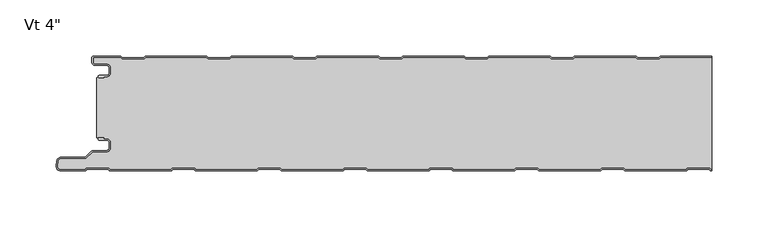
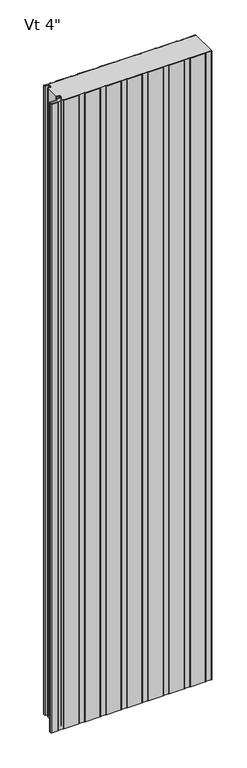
"""IFC4 building model written with IfcOpenShell, lengths in millimetres: plate geometry."""

from ifc_helpers import new_model, si_unit, point, frame, frame_2d, origin, origin_with_axes, place, context, project, spatial, polyline, circle_curve, trimmed, segment, composite_curve, outline, extrude, source, transform, mapped, element, save
from ifc_brep_helpers import plane_surface, cylinder_surface, revolved_surface, advanced_brep


def plate_0ff2a340(model_context):
    return source(origin(), model_context, "Body", "SolidModel", [
        advanced_brep(
        [(-270.768691, -17.0015159, 2400.0), (-271.7686883, -18.0015191, 2400.0), (-270.768691, -19.0015105, 2400.0), (-266.7684874, -19.0015105, 2400.0), (-266.7684874, -18.0015159, 2400.0), (-264.0762776, -18.0015159, 2400.0), (-260.7762819, -14.7015202, 2400.0), (-260.7762819, -10.301529, 2400.0), (-264.0762774, -7.0015335, 2400.0), (-274.4962563, -7.0015335, 2400.0), (-276.2662505, -5.2315393, 2400.0), (-276.2662505, -0.9999916, 2400.0), (-251.7659738, -0.9999916, 2400.0), (-250.3803312, -2.2002307, 2400.0), (-231.0051649, -2.2002307, 2400.0), (-229.619532, -1.0, 2400.0), (-175.5661166, -1.0, 2400.0), (-174.1804836, -2.2002307, 2400.0), (-154.8053173, -2.2002307, 2400.0), (-153.4196844, -1.0, 2400.0), (-99.366269, -1.0, 2400.0), (-97.980636, -2.2002307, 2400.0), (-78.6054697, -2.2002307, 2400.0), (-77.2198368, -1.0, 2400.0), (-23.1664214, -1.0, 2400.0), (-21.7807884, -2.2002307, 2400.0), (-2.4056221, -2.2002307, 2400.0), (-1.0199892, -1.0, 2400.0), (53.0334262, -1.0, 2400.0), (54.4190592, -2.2002307, 2400.0), (73.7942255, -2.2002307, 2400.0), (75.1798584, -1.0, 2400.0), (129.2332738, -1.0, 2400.0), (130.6189068, -2.2002307, 2400.0), (149.9940731, -2.2002307, 2400.0), (151.379706, -1.0, 2400.0), (205.4331214, -1.0, 2400.0), (206.8187544, -2.2002307, 2400.0), (226.1939207, -2.2002307, 2400.0), (227.5795536, -1.0, 2400.0), (272.7999998, -1.0, 2400.0), (272.7999998, 0.0, 2400.0), (227.7287048, 0.0, 2400.0), (226.8120879, -0.3417885, 2400.0), (225.8210403, -1.2002307, 2400.0), (207.1916348, -1.2002307, 2400.0), (206.2005872, -0.3417885, 2400.0), (205.2839703, 0.0, 2400.0), (151.5288572, 0.0, 2400.0), (150.6122403, -0.3417885, 2400.0), (149.6211927, -1.2002307, 2400.0), (130.9917872, -1.2002307, 2400.0), (130.0007396, -0.3417885, 2400.0), (129.0841227, 0.0, 2400.0), (75.3290096, 0.0, 2400.0), (74.4123927, -0.3417885, 2400.0), (73.4213451, -1.2002307, 2400.0), (54.7919396, -1.2002307, 2400.0), (53.800892, -0.3417885, 2400.0), (52.8842751, 0.0, 2400.0), (-0.870838, 0.0, 2400.0), (-1.7874549, -0.3417885, 2400.0), (-2.7785025, -1.2002307, 2400.0), (-21.407908, -1.2002307, 2400.0), (-22.3989556, -0.3417885, 2400.0), (-23.3155725, 0.0, 2400.0), (-77.0706856, 0.0, 2400.0), (-77.9873025, -0.3417885, 2400.0), (-78.9783501, -1.2002307, 2400.0), (-97.6077556, -1.2002307, 2400.0), (-98.5988032, -0.3417885, 2400.0), (-99.5154201, 0.0, 2400.0), (-153.2705332, 0.0, 2400.0), (-154.1871501, -0.3417885, 2400.0), (-155.1781977, -1.2002307, 2400.0), (-173.8076032, -1.2002307, 2400.0), (-174.7986508, -0.3417885, 2400.0), (-175.7152677, 0.0, 2400.0), (-229.4703808, 0.0, 2400.0), (-230.3869977, -0.3417885, 2400.0), (-231.3780453, -1.2002307, 2400.0), (-250.0074508, -1.2002307, 2400.0), (-250.9984984, -0.3417885, 2400.0), (-251.9152067, 0.0, 2400.0), (-275.8662543, 8.4e-06, 2400.0), (-277.2662505, -1.3999878, 2400.0), (-277.2662505, -5.2315393, 2400.0), (-274.4962563, -8.0015335, 2400.0), (-264.0762774, -8.0015335, 2400.0), (-261.7762819, -10.301529, 2400.0), (-261.7762819, -14.7015202, 2400.0), (-264.0762776, -17.0015159, 2400.0), (-270.768691, -17.0015159, 0.0), (-264.0762776, -17.0015159, 0.0), (-261.7762819, -14.7015202, 0.0), (-261.7762819, -10.301529, 0.0), (-264.0762774, -8.0015335, 0.0), (-274.4962563, -8.0015335, 0.0), (-277.2662505, -5.2315393, 0.0), (-277.2662505, -1.3999878, 0.0), (-275.8662543, 8.4e-06, 0.0), (-251.9151153, 8.4e-06, 0.0), (-250.9984984, -0.3417885, 0.0), (-250.0074508, -1.2002307, 0.0), (-231.3780453, -1.2002307, 0.0), (-230.3869977, -0.3417885, 0.0), (-229.4703808, 0.0, 0.0), (-175.7152677, 0.0, 0.0), (-174.7986508, -0.3417885, 0.0), (-173.8076032, -1.2002307, 0.0), (-155.1781977, -1.2002307, 0.0), (-154.1871501, -0.3417885, 0.0), (-153.2705332, 0.0, 0.0), (-99.5154201, 0.0, 0.0), (-98.5988032, -0.3417885, 0.0), (-97.6077556, -1.2002307, 0.0), (-78.9783501, -1.2002307, 0.0), (-77.9873025, -0.3417885, 0.0), (-77.0706856, 0.0, 0.0), (-23.3155725, 0.0, 0.0), (-22.3989556, -0.3417885, 0.0), (-21.407908, -1.2002307, 0.0), (-2.7785025, -1.2002307, 0.0), (-1.7874549, -0.3417885, 0.0), (-0.870838, 0.0, 0.0), (52.8842751, 0.0, 0.0), (53.800892, -0.3417885, 0.0), (54.7919396, -1.2002307, 0.0), (73.4213451, -1.2002307, 0.0), (74.4123927, -0.3417885, 0.0), (75.3290096, 0.0, 0.0), (129.0841227, 0.0, 0.0), (130.0007396, -0.3417885, 0.0), (130.9917872, -1.2002307, 0.0), (149.6211927, -1.2002307, 0.0), (150.6122403, -0.3417885, 0.0), (151.5288572, 0.0, 0.0), (205.2839703, 0.0, 0.0), (206.2005872, -0.3417885, 0.0), (207.1916348, -1.2002307, 0.0), (225.8210403, -1.2002307, 0.0), (226.8120879, -0.3417885, 0.0), (227.7287048, 0.0, 0.0), (272.7999998, 0.0, 0.0), (272.7999998, -1.0, 0.0), (227.5795536, -1.0, 0.0), (226.1939207, -2.2002307, 0.0), (206.8187544, -2.2002307, 0.0), (205.4331214, -1.0, 0.0), (151.379706, -1.0, 0.0), (149.9940731, -2.2002307, 0.0), (130.6189068, -2.2002307, 0.0), (129.2332738, -1.0, 0.0), (75.1798584, -1.0, 0.0), (73.7942255, -2.2002307, 0.0), (54.4190592, -2.2002307, 0.0), (53.0334262, -1.0, 0.0), (-1.0199892, -1.0, 0.0), (-2.4056221, -2.2002307, 0.0), (-21.7807884, -2.2002307, 0.0), (-23.1664214, -1.0, 0.0), (-77.2198368, -1.0, 0.0), (-78.6054697, -2.2002307, 0.0), (-97.980636, -2.2002307, 0.0), (-99.366269, -1.0, 0.0), (-153.4196844, -1.0, 0.0), (-154.8053173, -2.2002307, 0.0), (-174.1804836, -2.2002307, 0.0), (-175.5661166, -1.0, 0.0), (-229.619532, -1.0, 0.0), (-231.0051649, -2.2002307, 0.0), (-250.3803312, -2.2002307, 0.0), (-251.7659738, -0.9999916, 0.0), (-276.2662505, -0.9999916, 0.0), (-276.2662505, -5.2315393, 0.0), (-274.4962563, -7.0015335, 0.0), (-264.0762774, -7.0015335, 0.0), (-260.7762819, -10.301529, 0.0), (-260.7762819, -14.7015202, 0.0), (-264.0762776, -18.0015159, 0.0), (-266.7684874, -18.0015159, 0.0), (-266.7684874, -19.0015105, 0.0), (-270.768691, -19.0015105, 0.0), (-271.7686882, -18.0015192, 0.0)],
        [
            (0, 1, circle_curve(frame((-270.768691, -18.0015132, 2400.0), z_axis=(0.0, 0.0, 1.0), x_axis=(1.0, 0.0, 0.0)), 0.9999973)),
            (1, 2, circle_curve(frame((-270.768691, -18.0015133, 2400.0), z_axis=(0.0, 0.0, 1.0), x_axis=(1.0, 0.0, 0.0)), 0.9999972)),
            (2, 3),
            (3, 4),
            (4, 5),
            (5, 6, circle_curve(frame((-264.0762776, -14.7015202, 2400.0), z_axis=(0.0, 0.0, 1.0), x_axis=(1.0, 0.0, 0.0)), 3.2999957)),
            (6, 7),
            (7, 8, circle_curve(frame((-264.0762774, -10.301529, 2400.0), z_axis=(0.0, 0.0, 1.0), x_axis=(1.0, 0.0, 0.0)), 3.2999955)),
            (8, 9),
            (9, 10, circle_curve(frame((-274.4962563, -5.2315393, 2400.0), z_axis=(0.0, 0.0, -1.0), x_axis=(1.0, 0.0, 0.0)), 1.7699942)),
            (10, 11),
            (11, 12),
            (12, 13),
            (13, 14),
            (14, 15),
            (15, 16),
            (16, 17),
            (17, 18),
            (18, 19),
            (19, 20),
            (20, 21),
            (21, 22),
            (22, 23),
            (23, 24),
            (24, 25),
            (25, 26),
            (26, 27),
            (27, 28),
            (28, 29),
            (29, 30),
            (30, 31),
            (31, 32),
            (32, 33),
            (33, 34),
            (34, 35),
            (35, 36),
            (36, 37),
            (37, 38),
            (38, 39),
            (39, 40),
            (40, 41),
            (41, 42),
            (42, 43, circle_curve(frame((227.7287048, -1.3999972, 2400.0), z_axis=(0.0, 0.0, 1.0), x_axis=(1.0, 0.0, 0.0)), 1.3999972)),
            (43, 44),
            (44, 45),
            (45, 46),
            (46, 47, circle_curve(frame((205.2839703, -1.3999972, 2400.0), z_axis=(0.0, 0.0, 1.0), x_axis=(1.0, 0.0, 0.0)), 1.3999972)),
            (47, 48),
            (48, 49, circle_curve(frame((151.5288572, -1.3999972, 2400.0), z_axis=(0.0, 0.0, 1.0), x_axis=(1.0, 0.0, 0.0)), 1.3999972)),
            (49, 50),
            (50, 51),
            (51, 52),
            (52, 53, circle_curve(frame((129.0841227, -1.3999972, 2400.0), z_axis=(0.0, 0.0, 1.0), x_axis=(1.0, 0.0, 0.0)), 1.3999972)),
            (53, 54),
            (54, 55, circle_curve(frame((75.3290096, -1.3999972, 2400.0), z_axis=(0.0, 0.0, 1.0), x_axis=(1.0, 0.0, 0.0)), 1.3999972)),
            (55, 56),
            (56, 57),
            (57, 58),
            (58, 59, circle_curve(frame((52.8842751, -1.3999972, 2400.0), z_axis=(0.0, 0.0, 1.0), x_axis=(1.0, 0.0, 0.0)), 1.3999972)),
            (59, 60),
            (60, 61, circle_curve(frame((-0.870838, -1.3999972, 2400.0), z_axis=(0.0, 0.0, 1.0), x_axis=(1.0, 0.0, 0.0)), 1.3999972)),
            (61, 62),
            (62, 63),
            (63, 64),
            (64, 65, circle_curve(frame((-23.3155725, -1.3999972, 2400.0), z_axis=(0.0, 0.0, 1.0), x_axis=(1.0, 0.0, 0.0)), 1.3999972)),
            (65, 66),
            (66, 67, circle_curve(frame((-77.0706856, -1.3999972, 2400.0), z_axis=(0.0, 0.0, 1.0), x_axis=(1.0, 0.0, 0.0)), 1.3999972)),
            (67, 68),
            (68, 69),
            (69, 70),
            (70, 71, circle_curve(frame((-99.5154201, -1.3999972, 2400.0), z_axis=(0.0, 0.0, 1.0), x_axis=(1.0, 0.0, 0.0)), 1.3999972)),
            (71, 72),
            (72, 73, circle_curve(frame((-153.2705332, -1.3999972, 2400.0), z_axis=(0.0, 0.0, 1.0), x_axis=(1.0, 0.0, 0.0)), 1.3999972)),
            (73, 74),
            (74, 75),
            (75, 76),
            (76, 77, circle_curve(frame((-175.7152677, -1.3999972, 2400.0), z_axis=(0.0, 0.0, 1.0), x_axis=(1.0, 0.0, 0.0)), 1.3999972)),
            (77, 78),
            (78, 79, circle_curve(frame((-229.4703808, -1.3999972, 2400.0), z_axis=(0.0, 0.0, 1.0), x_axis=(1.0, 0.0, 0.0)), 1.3999972)),
            (79, 80),
            (80, 81),
            (81, 82),
            (82, 83, circle_curve(frame((-251.9151153, -1.3999972, 2400.0), z_axis=(0.0, 0.0, 1.0), x_axis=(1.0, 0.0, 0.0)), 1.3999972)),
            (83, 84),
            (84, 85, circle_curve(frame((-275.8662543, -1.3999878, 2400.0), z_axis=(0.0, 0.0, 1.0), x_axis=(1.0, 0.0, 0.0)), 1.3999962)),
            (85, 86),
            (86, 87, circle_curve(frame((-274.4962563, -5.2315393, 2400.0), z_axis=(0.0, 0.0, 1.0), x_axis=(1.0, 0.0, 0.0)), 2.7699942)),
            (87, 88),
            (88, 89, circle_curve(frame((-264.0762774, -10.301529, 2400.0), z_axis=(0.0, 0.0, -1.0), x_axis=(1.0, 0.0, 0.0)), 2.2999955)),
            (89, 90),
            (90, 91, circle_curve(frame((-264.0762776, -14.7015202, 2400.0), z_axis=(0.0, 0.0, -1.0), x_axis=(1.0, 0.0, 0.0)), 2.2999957)),
            (91, 0),
            (92, 93),
            (93, 94, circle_curve(frame((-264.0762776, -14.7015202, 0.0), z_axis=(0.0, 0.0, 1.0), x_axis=(1.0, 0.0, 0.0)), 2.2999957)),
            (94, 95),
            (95, 96, circle_curve(frame((-264.0762774, -10.301529, 0.0), z_axis=(0.0, 0.0, 1.0), x_axis=(1.0, 0.0, 0.0)), 2.2999955)),
            (96, 97),
            (97, 98, circle_curve(frame((-274.4962563, -5.2315393, 0.0), z_axis=(0.0, 0.0, -1.0), x_axis=(1.0, 0.0, 0.0)), 2.7699942)),
            (98, 99),
            (99, 100, circle_curve(frame((-275.8662543, -1.3999878, 0.0), z_axis=(0.0, 0.0, -1.0), x_axis=(1.0, 0.0, 0.0)), 1.3999962)),
            (100, 101),
            (101, 102, circle_curve(frame((-251.9151153, -1.3999972, 0.0), z_axis=(0.0, 0.0, -1.0), x_axis=(1.0, 0.0, 0.0)), 1.3999972)),
            (102, 103),
            (103, 104),
            (104, 105),
            (105, 106, circle_curve(frame((-229.4703808, -1.3999972, 0.0), z_axis=(0.0, 0.0, -1.0), x_axis=(1.0, 0.0, 0.0)), 1.3999972)),
            (106, 107),
            (107, 108, circle_curve(frame((-175.7152677, -1.3999972, 0.0), z_axis=(0.0, 0.0, -1.0), x_axis=(1.0, 0.0, 0.0)), 1.3999972)),
            (108, 109),
            (109, 110),
            (110, 111),
            (111, 112, circle_curve(frame((-153.2705332, -1.3999972, 0.0), z_axis=(0.0, 0.0, -1.0), x_axis=(1.0, 0.0, 0.0)), 1.3999972)),
            (112, 113),
            (113, 114, circle_curve(frame((-99.5154201, -1.3999972, 0.0), z_axis=(0.0, 0.0, -1.0), x_axis=(1.0, 0.0, 0.0)), 1.3999972)),
            (114, 115),
            (115, 116),
            (116, 117),
            (117, 118, circle_curve(frame((-77.0706856, -1.3999972, 0.0), z_axis=(0.0, 0.0, -1.0), x_axis=(1.0, 0.0, 0.0)), 1.3999972)),
            (118, 119),
            (119, 120, circle_curve(frame((-23.3155725, -1.3999972, 0.0), z_axis=(0.0, 0.0, -1.0), x_axis=(1.0, 0.0, 0.0)), 1.3999972)),
            (120, 121),
            (121, 122),
            (122, 123),
            (123, 124, circle_curve(frame((-0.870838, -1.3999972, 0.0), z_axis=(0.0, 0.0, -1.0), x_axis=(1.0, 0.0, 0.0)), 1.3999972)),
            (124, 125),
            (125, 126, circle_curve(frame((52.8842751, -1.3999972, 0.0), z_axis=(0.0, 0.0, -1.0), x_axis=(1.0, 0.0, 0.0)), 1.3999972)),
            (126, 127),
            (127, 128),
            (128, 129),
            (129, 130, circle_curve(frame((75.3290096, -1.3999972, 0.0), z_axis=(0.0, 0.0, -1.0), x_axis=(1.0, 0.0, 0.0)), 1.3999972)),
            (130, 131),
            (131, 132, circle_curve(frame((129.0841227, -1.3999972, 0.0), z_axis=(0.0, 0.0, -1.0), x_axis=(1.0, 0.0, 0.0)), 1.3999972)),
            (132, 133),
            (133, 134),
            (134, 135),
            (135, 136, circle_curve(frame((151.5288572, -1.3999972, 0.0), z_axis=(0.0, 0.0, -1.0), x_axis=(1.0, 0.0, 0.0)), 1.3999972)),
            (136, 137),
            (137, 138, circle_curve(frame((205.2839703, -1.3999972, 0.0), z_axis=(0.0, 0.0, -1.0), x_axis=(1.0, 0.0, 0.0)), 1.3999972)),
            (138, 139),
            (139, 140),
            (140, 141),
            (141, 142, circle_curve(frame((227.7287048, -1.3999972, 0.0), z_axis=(0.0, 0.0, -1.0), x_axis=(1.0, 0.0, 0.0)), 1.3999972)),
            (142, 143),
            (143, 144),
            (144, 145),
            (145, 146),
            (146, 147),
            (147, 148),
            (148, 149),
            (149, 150),
            (150, 151),
            (151, 152),
            (152, 153),
            (153, 154),
            (154, 155),
            (155, 156),
            (156, 157),
            (157, 158),
            (158, 159),
            (159, 160),
            (160, 161),
            (161, 162),
            (162, 163),
            (163, 164),
            (164, 165),
            (165, 166),
            (166, 167),
            (167, 168),
            (168, 169),
            (169, 170),
            (170, 171),
            (171, 172),
            (172, 173),
            (173, 174),
            (174, 175, circle_curve(frame((-274.4962563, -5.2315393, 0.0), z_axis=(0.0, 0.0, 1.0), x_axis=(1.0, 0.0, 0.0)), 1.7699942)),
            (175, 176),
            (176, 177, circle_curve(frame((-264.0762774, -10.301529, 0.0), z_axis=(0.0, 0.0, -1.0), x_axis=(1.0, 0.0, 0.0)), 3.2999955)),
            (177, 178),
            (178, 179, circle_curve(frame((-264.0762776, -14.7015202, 0.0), z_axis=(0.0, 0.0, -1.0), x_axis=(1.0, 0.0, 0.0)), 3.2999957)),
            (179, 180),
            (180, 181),
            (181, 182),
            (182, 183, circle_curve(frame((-270.768691, -18.0015133, 0.0), z_axis=(0.0, 0.0, -1.0), x_axis=(1.0, 0.0, 0.0)), 0.9999972)),
            (183, 92, circle_curve(frame((-270.768691, -18.0015132, 0.0), z_axis=(0.0, 0.0, -1.0), x_axis=(1.0, 0.0, 0.0)), 0.9999973)),
            (91, 93),
            (92, 0),
            (90, 94),
            (89, 95),
            (88, 96),
            (87, 97),
            (86, 98),
            (85, 99),
            (84, 100),
            (83, 101),
            (10, 174),
            (173, 11),
            (9, 175),
            (8, 176),
            (7, 177),
            (6, 178),
            (5, 179),
            (4, 180),
            (3, 181),
            (2, 182),
            (1, 183),
            (40, 144),
            (143, 41),
            (82, 102),
            (81, 103),
            (80, 104),
            (79, 105),
            (78, 106),
            (77, 107),
            (76, 108),
            (75, 109),
            (74, 110),
            (73, 111),
            (72, 112),
            (71, 113),
            (70, 114),
            (69, 115),
            (68, 116),
            (67, 117),
            (66, 118),
            (65, 119),
            (64, 120),
            (63, 121),
            (62, 122),
            (61, 123),
            (60, 124),
            (59, 125),
            (58, 126),
            (57, 127),
            (56, 128),
            (55, 129),
            (54, 130),
            (53, 131),
            (52, 132),
            (51, 133),
            (50, 134),
            (49, 135),
            (48, 136),
            (47, 137),
            (46, 138),
            (45, 139),
            (44, 140),
            (43, 141),
            (42, 142),
            (39, 145),
            (38, 146),
            (37, 147),
            (36, 148),
            (35, 149),
            (34, 150),
            (33, 151),
            (32, 152),
            (31, 153),
            (30, 154),
            (29, 155),
            (28, 156),
            (27, 157),
            (26, 158),
            (25, 159),
            (24, 160),
            (23, 161),
            (22, 162),
            (21, 163),
            (20, 164),
            (19, 165),
            (18, 166),
            (17, 167),
            (16, 168),
            (15, 169),
            (14, 170),
            (13, 171),
            (12, 172),
        ],
        [
            plane_surface(frame((184.4000002, 0.0, 2400.0), z_axis=(0.0, 0.0, 1.0), x_axis=(0.0, 1.0, 0.0))),
            plane_surface(frame((184.4000002, 0.0, 0.0), z_axis=(0.0, 0.0, -1.0), x_axis=(0.0, 1.0, 0.0))),
            plane_surface(frame((-270.768691, -17.0015159, 2400.0), z_axis=(0.0, 1.0, 0.0), x_axis=(0.0, 0.0, -1.0))),
            revolved_surface(polyline([(-261.7762819, -14.7015202, 0.0), (-261.7762819, -14.7015202, 2400.0)]), (-264.0762776, -14.7015202, 2400.0), (0.0, 0.0, -1.0)),
            plane_surface(frame((-261.7762819, -14.7015202, 2400.0), z_axis=(-1.0, 0.0, 0.0), x_axis=(0.0, 0.0, -1.0))),
            revolved_surface(polyline([(-261.77628189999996, -10.301529, 0.0), (-261.77628189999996, -10.301529, 2400.0)]), (-264.0762774, -10.301529, 2400.0), (0.0, 0.0, -1.0)),
            plane_surface(frame((-264.0762774, -8.0015335, 2400.0), z_axis=(0.0, -1.0, 0.0), x_axis=(0.0, 0.0, -1.0))),
            cylinder_surface(frame((-274.4962563, -5.2315393, 2400.0), z_axis=(0.0, 0.0, 1.0), x_axis=(1.0, 0.0, 0.0)), 2.7699942),
            plane_surface(frame((-277.2662505, -5.2315393, 2400.0), z_axis=(-1.0, 0.0, 0.0), x_axis=(0.0, 0.0, -1.0))),
            cylinder_surface(frame((-275.8662543, -1.3999878, 2400.0), z_axis=(0.0, 0.0, 1.0), x_axis=(1.0, 0.0, 0.0)), 1.3999962),
            plane_surface(frame((-275.8662543, 8.4e-06, 2400.0), z_axis=(0.0, 1.0, 0.0), x_axis=(0.0, 0.0, -1.0))),
            plane_surface(frame((-276.2662505, -0.9999916, 2400.0), z_axis=(1.0, 0.0, 0.0), x_axis=(0.0, 0.0, -1.0))),
            revolved_surface(polyline([(-272.72626210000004, -5.2315393, 0.0), (-272.72626210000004, -5.2315393, 2400.0)]), (-274.4962563, -5.2315393, 2400.0), (0.0, 0.0, -1.0)),
            plane_surface(frame((-274.4962563, -7.0015335, 2400.0), z_axis=(0.0, 1.0, 0.0), x_axis=(0.0, 0.0, -1.0))),
            cylinder_surface(frame((-264.0762774, -10.301529, 2400.0), z_axis=(0.0, 0.0, 1.0), x_axis=(1.0, 0.0, 0.0)), 3.2999955),
            plane_surface(frame((-260.7762819, -10.301529, 2400.0), z_axis=(1.0, 0.0, 0.0), x_axis=(0.0, 0.0, -1.0))),
            cylinder_surface(frame((-264.0762776, -14.7015202, 2400.0), z_axis=(0.0, 0.0, 1.0), x_axis=(1.0, 0.0, 0.0)), 3.2999957),
            plane_surface(frame((-264.0762776, -18.0015159, 2400.0), z_axis=(0.0, -1.0, 0.0), x_axis=(0.0, 0.0, -1.0))),
            plane_surface(frame((-266.7684874, -18.0015159, 2400.0), z_axis=(1.0, 0.0, 0.0), x_axis=(0.0, 0.0, -1.0))),
            plane_surface(frame((-266.7684874, -19.0015105, 2400.0), z_axis=(0.0, -1.0, 0.0), x_axis=(0.0, 0.0, -1.0))),
            cylinder_surface(frame((-270.768691, -18.0015133, 2400.0), z_axis=(0.0, 0.0, 1.0), x_axis=(1.0, 0.0, 0.0)), 0.9999972),
            cylinder_surface(frame((-270.768691, -18.0015132, 2400.0), z_axis=(0.0, 0.0, 1.0), x_axis=(1.0, 0.0, 0.0)), 0.9999973),
            plane_surface(frame((272.7999998, -111.6, 2400.0), z_axis=(1.0, 0.0, 0.0), x_axis=(0.0, 0.0, -1.0))),
            cylinder_surface(frame((-251.9151153, -1.3999972, 2400.0), z_axis=(0.0, 0.0, 1.0), x_axis=(1.0, 0.0, 0.0)), 1.3999972),
            plane_surface(frame((-250.9984984, -0.3417885, 2400.0), z_axis=(0.6547276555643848, 0.7558648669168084, 0.0), x_axis=(0.0, 0.0, -1.0))),
            plane_surface(frame((-240.6927481, -1.2002307, 2400.0), z_axis=(0.0, 1.0, 0.0), x_axis=(0.0, 0.0, -1.0))),
            plane_surface(frame((-231.3780453, -1.2002307, 2400.0), z_axis=(-0.6547276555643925, 0.7558648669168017, 0.0), x_axis=(0.0, 0.0, -1.0))),
            cylinder_surface(frame((-229.4703808, -1.3999972, 2400.0), z_axis=(0.0, 0.0, 1.0), x_axis=(1.0, 0.0, 0.0)), 1.3999972),
            plane_surface(frame((-229.4703808, 0.0, 2400.0), z_axis=(0.0, 1.0, 0.0), x_axis=(0.0, 0.0, -1.0))),
            cylinder_surface(frame((-175.7152677, -1.3999972, 2400.0), z_axis=(0.0, 0.0, 1.0), x_axis=(1.0, 0.0, 0.0)), 1.3999972),
            plane_surface(frame((-174.7986508, -0.3417885, 2400.0), z_axis=(0.6547276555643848, 0.7558648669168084, 0.0), x_axis=(0.0, 0.0, -1.0))),
            plane_surface(frame((-164.4929005, -1.2002307, 2400.0), z_axis=(0.0, 1.0, 0.0), x_axis=(0.0, 0.0, -1.0))),
            plane_surface(frame((-155.1781977, -1.2002307, 2400.0), z_axis=(-0.6547276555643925, 0.7558648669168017, 0.0), x_axis=(0.0, 0.0, -1.0))),
            cylinder_surface(frame((-153.2705332, -1.3999972, 2400.0), z_axis=(0.0, 0.0, 1.0), x_axis=(1.0, 0.0, 0.0)), 1.3999972),
            plane_surface(frame((-153.2705332, 0.0, 2400.0), z_axis=(0.0, 1.0, 0.0), x_axis=(0.0, 0.0, -1.0))),
            cylinder_surface(frame((-99.5154201, -1.3999972, 2400.0), z_axis=(0.0, 0.0, 1.0), x_axis=(1.0, 0.0, 0.0)), 1.3999972),
            plane_surface(frame((-98.5988032, -0.3417885, 2400.0), z_axis=(0.6547276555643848, 0.7558648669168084, 0.0), x_axis=(0.0, 0.0, -1.0))),
            plane_surface(frame((-88.2930529, -1.2002307, 2400.0), z_axis=(0.0, 1.0, 0.0), x_axis=(0.0, 0.0, -1.0))),
            plane_surface(frame((-78.9783501, -1.2002307, 2400.0), z_axis=(-0.6547276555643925, 0.7558648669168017, 0.0), x_axis=(0.0, 0.0, -1.0))),
            cylinder_surface(frame((-77.0706856, -1.3999972, 2400.0), z_axis=(0.0, 0.0, 1.0), x_axis=(1.0, 0.0, 0.0)), 1.3999972),
            plane_surface(frame((-77.0706856, 0.0, 2400.0), z_axis=(0.0, 1.0, 0.0), x_axis=(0.0, 0.0, -1.0))),
            cylinder_surface(frame((-23.3155725, -1.3999972, 2400.0), z_axis=(0.0, 0.0, 1.0), x_axis=(1.0, 0.0, 0.0)), 1.3999972),
            plane_surface(frame((-22.3989556, -0.3417885, 2400.0), z_axis=(0.6547276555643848, 0.7558648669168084, 0.0), x_axis=(0.0, 0.0, -1.0))),
            plane_surface(frame((-12.0932053, -1.2002307, 2400.0), z_axis=(0.0, 1.0, 0.0), x_axis=(0.0, 0.0, -1.0))),
            plane_surface(frame((-2.7785025, -1.2002307, 2400.0), z_axis=(-0.6547276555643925, 0.7558648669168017, 0.0), x_axis=(0.0, 0.0, -1.0))),
            cylinder_surface(frame((-0.870838, -1.3999972, 2400.0), z_axis=(0.0, 0.0, 1.0), x_axis=(1.0, 0.0, 0.0)), 1.3999972),
            plane_surface(frame((-0.870838, 0.0, 2400.0), z_axis=(0.0, 1.0, 0.0), x_axis=(0.0, 0.0, -1.0))),
            cylinder_surface(frame((52.8842751, -1.3999972, 2400.0), z_axis=(0.0, 0.0, 1.0), x_axis=(1.0, 0.0, 0.0)), 1.3999972),
            plane_surface(frame((53.800892, -0.3417885, 2400.0), z_axis=(0.6547276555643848, 0.7558648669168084, 0.0), x_axis=(0.0, 0.0, -1.0))),
            plane_surface(frame((64.1066423, -1.2002307, 2400.0), z_axis=(0.0, 1.0, 0.0), x_axis=(0.0, 0.0, -1.0))),
            plane_surface(frame((73.4213451, -1.2002307, 2400.0), z_axis=(-0.6547276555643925, 0.7558648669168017, 0.0), x_axis=(0.0, 0.0, -1.0))),
            cylinder_surface(frame((75.3290096, -1.3999972, 2400.0), z_axis=(0.0, 0.0, 1.0), x_axis=(1.0, 0.0, 0.0)), 1.3999972),
            plane_surface(frame((75.3290096, 0.0, 2400.0), z_axis=(0.0, 1.0, 0.0), x_axis=(0.0, 0.0, -1.0))),
            cylinder_surface(frame((129.0841227, -1.3999972, 2400.0), z_axis=(0.0, 0.0, 1.0), x_axis=(1.0, 0.0, 0.0)), 1.3999972),
            plane_surface(frame((130.0007396, -0.3417885, 2400.0), z_axis=(0.6547276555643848, 0.7558648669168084, 0.0), x_axis=(0.0, 0.0, -1.0))),
            plane_surface(frame((140.3064899, -1.2002307, 2400.0), z_axis=(0.0, 1.0, 0.0), x_axis=(0.0, 0.0, -1.0))),
            plane_surface(frame((149.6211927, -1.2002307, 2400.0), z_axis=(-0.6547276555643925, 0.7558648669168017, 0.0), x_axis=(0.0, 0.0, -1.0))),
            cylinder_surface(frame((151.5288572, -1.3999972, 2400.0), z_axis=(0.0, 0.0, 1.0), x_axis=(1.0, 0.0, 0.0)), 1.3999972),
            plane_surface(frame((151.5288572, 0.0, 2400.0), z_axis=(0.0, 1.0, 0.0), x_axis=(0.0, 0.0, -1.0))),
            cylinder_surface(frame((205.2839703, -1.3999972, 2400.0), z_axis=(0.0, 0.0, 1.0), x_axis=(1.0, 0.0, 0.0)), 1.3999972),
            plane_surface(frame((206.2005872, -0.3417885, 2400.0), z_axis=(0.6547276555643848, 0.7558648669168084, 0.0), x_axis=(0.0, 0.0, -1.0))),
            plane_surface(frame((216.5063375, -1.2002307, 2400.0), z_axis=(0.0, 1.0, 0.0), x_axis=(0.0, 0.0, -1.0))),
            plane_surface(frame((225.8210403, -1.2002307, 2400.0), z_axis=(-0.6547276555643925, 0.7558648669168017, 0.0), x_axis=(0.0, 0.0, -1.0))),
            cylinder_surface(frame((227.7287048, -1.3999972, 2400.0), z_axis=(0.0, 0.0, 1.0), x_axis=(1.0, 0.0, 0.0)), 1.3999972),
            plane_surface(frame((227.7287048, 0.0, 2400.0), z_axis=(0.0, 1.0, 0.0), x_axis=(0.0, 0.0, -1.0))),
            plane_surface(frame((281.632969, -1.0, 2400.0), z_axis=(0.0, -1.0, 0.0), x_axis=(0.0, 0.0, -1.0))),
            plane_surface(frame((227.5795536, -1.0, 2400.0), z_axis=(0.6547276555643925, -0.7558648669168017, 0.0), x_axis=(0.0, 0.0, -1.0))),
            plane_surface(frame((226.1939207, -2.2002307, 2400.0), z_axis=(0.0, -1.0, 0.0), x_axis=(0.0, 0.0, -1.0))),
            plane_surface(frame((206.8187544, -2.2002307, 2400.0), z_axis=(-0.6547276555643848, -0.7558648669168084, 0.0), x_axis=(0.0, 0.0, -1.0))),
            plane_surface(frame((205.4331214, -1.0, 2400.0), z_axis=(0.0, -1.0, 0.0), x_axis=(0.0, 0.0, -1.0))),
            plane_surface(frame((151.379706, -1.0, 2400.0), z_axis=(0.6547276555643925, -0.7558648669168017, 0.0), x_axis=(0.0, 0.0, -1.0))),
            plane_surface(frame((149.9940731, -2.2002307, 2400.0), z_axis=(0.0, -1.0, 0.0), x_axis=(0.0, 0.0, -1.0))),
            plane_surface(frame((130.6189068, -2.2002307, 2400.0), z_axis=(-0.6547276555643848, -0.7558648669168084, 0.0), x_axis=(0.0, 0.0, -1.0))),
            plane_surface(frame((129.2332738, -1.0, 2400.0), z_axis=(0.0, -1.0, 0.0), x_axis=(0.0, 0.0, -1.0))),
            plane_surface(frame((75.1798584, -1.0, 2400.0), z_axis=(0.6547276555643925, -0.7558648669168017, 0.0), x_axis=(0.0, 0.0, -1.0))),
            plane_surface(frame((73.7942255, -2.2002307, 2400.0), z_axis=(0.0, -1.0, 0.0), x_axis=(0.0, 0.0, -1.0))),
            plane_surface(frame((54.4190592, -2.2002307, 2400.0), z_axis=(-0.6547276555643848, -0.7558648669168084, 0.0), x_axis=(0.0, 0.0, -1.0))),
            plane_surface(frame((53.0334262, -1.0, 2400.0), z_axis=(0.0, -1.0, 0.0), x_axis=(0.0, 0.0, -1.0))),
            plane_surface(frame((-1.0199892, -1.0, 2400.0), z_axis=(0.6547276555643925, -0.7558648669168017, 0.0), x_axis=(0.0, 0.0, -1.0))),
            plane_surface(frame((-2.4056221, -2.2002307, 2400.0), z_axis=(0.0, -1.0, 0.0), x_axis=(0.0, 0.0, -1.0))),
            plane_surface(frame((-21.7807884, -2.2002307, 2400.0), z_axis=(-0.6547276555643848, -0.7558648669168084, 0.0), x_axis=(0.0, 0.0, -1.0))),
            plane_surface(frame((-23.1664214, -1.0, 2400.0), z_axis=(0.0, -1.0, 0.0), x_axis=(0.0, 0.0, -1.0))),
            plane_surface(frame((-77.2198368, -1.0, 2400.0), z_axis=(0.6547276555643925, -0.7558648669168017, 0.0), x_axis=(0.0, 0.0, -1.0))),
            plane_surface(frame((-78.6054697, -2.2002307, 2400.0), z_axis=(0.0, -1.0, 0.0), x_axis=(0.0, 0.0, -1.0))),
            plane_surface(frame((-97.980636, -2.2002307, 2400.0), z_axis=(-0.6547276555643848, -0.7558648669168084, 0.0), x_axis=(0.0, 0.0, -1.0))),
            plane_surface(frame((-99.366269, -1.0, 2400.0), z_axis=(0.0, -1.0, 0.0), x_axis=(0.0, 0.0, -1.0))),
            plane_surface(frame((-153.4196844, -1.0, 2400.0), z_axis=(0.6547276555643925, -0.7558648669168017, 0.0), x_axis=(0.0, 0.0, -1.0))),
            plane_surface(frame((-154.8053173, -2.2002307, 2400.0), z_axis=(0.0, -1.0, 0.0), x_axis=(0.0, 0.0, -1.0))),
            plane_surface(frame((-174.1804836, -2.2002307, 2400.0), z_axis=(-0.6547276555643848, -0.7558648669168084, 0.0), x_axis=(0.0, 0.0, -1.0))),
            plane_surface(frame((-175.5661166, -1.0, 2400.0), z_axis=(0.0, -1.0, 0.0), x_axis=(0.0, 0.0, -1.0))),
            plane_surface(frame((-229.619532, -1.0, 2400.0), z_axis=(0.6547276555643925, -0.7558648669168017, 0.0), x_axis=(0.0, 0.0, -1.0))),
            plane_surface(frame((-231.0051649, -2.2002307, 2400.0), z_axis=(0.0, -1.0, 0.0), x_axis=(0.0, 0.0, -1.0))),
            plane_surface(frame((-250.3803312, -2.2002307, 2400.0), z_axis=(-0.6547276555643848, -0.7558648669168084, 0.0), x_axis=(0.0, 0.0, -1.0))),
            plane_surface(frame((-251.7659738, -0.9999916, 2400.0), z_axis=(0.0, -1.0, 0.0), x_axis=(0.0, 0.0, -1.0))),
        ],
        [
            (0, [[1, 2, 3, 4, 5, 6, 7, 8, 9, 10, 11, 12, 13, 14, 15, 16, 17, 18, 19, 20, 21, 22, 23, 24, 25, 26, 27, 28, 29, 30, 31, 32, 33, 34, 35, 36, 37, 38, 39, 40, 41, 42, 43, 44, 45, 46, 47, 48, 49, 50, 51, 52, 53, 54, 55, 56, 57, 58, 59, 60, 61, 62, 63, 64, 65, 66, 67, 68, 69, 70, 71, 72, 73, 74, 75, 76, 77, 78, 79, 80, 81, 82, 83, 84, 85, 86, 87, 88, 89, 90, 91, 92]]),
            (1, [[93, 94, 95, 96, 97, 98, 99, 100, 101, 102, 103, 104, 105, 106, 107, 108, 109, 110, 111, 112, 113, 114, 115, 116, 117, 118, 119, 120, 121, 122, 123, 124, 125, 126, 127, 128, 129, 130, 131, 132, 133, 134, 135, 136, 137, 138, 139, 140, 141, 142, 143, 144, 145, 146, 147, 148, 149, 150, 151, 152, 153, 154, 155, 156, 157, 158, 159, 160, 161, 162, 163, 164, 165, 166, 167, 168, 169, 170, 171, 172, 173, 174, 175, 176, 177, 178, 179, 180, 181, 182, 183, 184]]),
            (2, [[185, -93, 186, -92]]),
            (3, [[187, -94, -185, -91]]),
            (4, [[188, -95, -187, -90]]),
            (5, [[189, -96, -188, -89]]),
            (6, [[190, -97, -189, -88]]),
            (7, [[191, -98, -190, -87]]),
            (8, [[192, -99, -191, -86]]),
            (9, [[193, -100, -192, -85]]),
            (10, [[194, -101, -193, -84]]),
            (11, [[195, -174, 196, -11]]),
            (12, [[197, -175, -195, -10]]),
            (13, [[198, -176, -197, -9]]),
            (14, [[199, -177, -198, -8]]),
            (15, [[200, -178, -199, -7]]),
            (16, [[201, -179, -200, -6]]),
            (17, [[202, -180, -201, -5]]),
            (18, [[203, -181, -202, -4]]),
            (19, [[204, -182, -203, -3]]),
            (20, [[205, -183, -204, -2]]),
            (21, [[-186, -184, -205, -1]]),
            (22, [[206, -144, 207, -41]]),
            (23, [[208, -102, -194, -83]]),
            (24, [[209, -103, -208, -82]]),
            (25, [[210, -104, -209, -81]]),
            (26, [[211, -105, -210, -80]]),
            (27, [[212, -106, -211, -79]]),
            (28, [[213, -107, -212, -78]]),
            (29, [[214, -108, -213, -77]]),
            (30, [[215, -109, -214, -76]]),
            (31, [[216, -110, -215, -75]]),
            (32, [[217, -111, -216, -74]]),
            (33, [[218, -112, -217, -73]]),
            (34, [[219, -113, -218, -72]]),
            (35, [[220, -114, -219, -71]]),
            (36, [[221, -115, -220, -70]]),
            (37, [[222, -116, -221, -69]]),
            (38, [[223, -117, -222, -68]]),
            (39, [[224, -118, -223, -67]]),
            (40, [[225, -119, -224, -66]]),
            (41, [[226, -120, -225, -65]]),
            (42, [[227, -121, -226, -64]]),
            (43, [[228, -122, -227, -63]]),
            (44, [[229, -123, -228, -62]]),
            (45, [[230, -124, -229, -61]]),
            (46, [[231, -125, -230, -60]]),
            (47, [[232, -126, -231, -59]]),
            (48, [[233, -127, -232, -58]]),
            (49, [[234, -128, -233, -57]]),
            (50, [[235, -129, -234, -56]]),
            (51, [[236, -130, -235, -55]]),
            (52, [[237, -131, -236, -54]]),
            (53, [[238, -132, -237, -53]]),
            (54, [[239, -133, -238, -52]]),
            (55, [[240, -134, -239, -51]]),
            (56, [[241, -135, -240, -50]]),
            (57, [[242, -136, -241, -49]]),
            (58, [[243, -137, -242, -48]]),
            (59, [[244, -138, -243, -47]]),
            (60, [[245, -139, -244, -46]]),
            (61, [[246, -140, -245, -45]]),
            (62, [[247, -141, -246, -44]]),
            (63, [[248, -142, -247, -43]]),
            (64, [[-42, -207, -143, -248]]),
            (65, [[-145, -206, -40, 249]]),
            (66, [[250, -146, -249, -39]]),
            (67, [[251, -147, -250, -38]]),
            (68, [[252, -148, -251, -37]]),
            (69, [[253, -149, -252, -36]]),
            (70, [[254, -150, -253, -35]]),
            (71, [[255, -151, -254, -34]]),
            (72, [[256, -152, -255, -33]]),
            (73, [[257, -153, -256, -32]]),
            (74, [[258, -154, -257, -31]]),
            (75, [[259, -155, -258, -30]]),
            (76, [[260, -156, -259, -29]]),
            (77, [[261, -157, -260, -28]]),
            (78, [[262, -158, -261, -27]]),
            (79, [[263, -159, -262, -26]]),
            (80, [[264, -160, -263, -25]]),
            (81, [[265, -161, -264, -24]]),
            (82, [[266, -162, -265, -23]]),
            (83, [[267, -163, -266, -22]]),
            (84, [[268, -164, -267, -21]]),
            (85, [[269, -165, -268, -20]]),
            (86, [[270, -166, -269, -19]]),
            (87, [[271, -167, -270, -18]]),
            (88, [[272, -168, -271, -17]]),
            (89, [[273, -169, -272, -16]]),
            (90, [[274, -170, -273, -15]]),
            (91, [[275, -171, -274, -14]]),
            (92, [[276, -172, -275, -13]]),
            (93, [[-196, -173, -276, -12]]),
        ],
    ),
        extrude(outline(composite_curve([segment(polyline([(-283.4415932, -101.5997378), (-305.2521175, -101.5997378)]), True, "CONTINUOUS"), segment(trimmed(circle_curve(frame_2d((-305.2521175, -98.0294985)), 3.5702393), [point((-305.2521175, -101.5997378))], [point((-308.8087619, -97.7182281))], False, "CARTESIAN"), True, "CONTINUOUS"), segment(polyline([(-308.8087619, -97.7182281), (-308.3690674, -92.6941815)]), True, "CONTINUOUS"), segment(trimmed(circle_curve(frame_2d((-304.7198391, -93.3049826)), 3.6999926), [point((-308.3690674, -92.6941815))], [point((-304.7198391, -89.60499))], False, "CARTESIAN"), True, "CONTINUOUS"), segment(polyline([(-304.7198391, -89.60499), (-283.5773995, -89.60499)]), True, "CONTINUOUS"), segment(trimmed(circle_curve(frame_2d((-283.5773995, -88.3049926)), 1.2999974), [point((-283.5773995, -89.60499))], [point((-282.6581626, -89.2242296))], True, "CARTESIAN"), True, "CONTINUOUS"), segment(polyline([(-282.6581626, -89.2242296), (-277.8297451, -84.3958121)]), True, "CONTINUOUS"), segment(trimmed(circle_curve(frame_2d((-275.9205606, -86.3049966)), 2.6999946), [point((-277.8297451, -84.3958121))], [point((-275.9205606, -83.605002))], False, "CARTESIAN"), True, "CONTINUOUS"), segment(polyline([(-275.9205606, -83.605002), (-264.1096715, -83.605002)]), True, "CONTINUOUS"), segment(trimmed(circle_curve(frame_2d((-264.1096715, -81.2550067)), 2.3499953), [point((-264.1096715, -83.605002))], [point((-261.7596762, -81.2550067))], True, "CARTESIAN"), True, "CONTINUOUS"), segment(polyline([(-261.7596762, -81.2550067), (-261.7596762, -76.8550155)]), True, "CONTINUOUS"), segment(trimmed(circle_curve(frame_2d((-264.1096715, -76.8550155)), 2.3499953), [point((-261.7596762, -76.8550155))], [point((-264.1096715, -74.5050202))], True, "CARTESIAN"), True, "CONTINUOUS"), segment(polyline([(-264.1096715, -74.5050202), (-270.6289777, -74.5050202)]), True, "CONTINUOUS"), segment(trimmed(circle_curve(frame_2d((-270.5686906, -73.306538)), 1.1999976), [point((-270.6289777, -74.5050202))], [point((-271.7683, -73.2760161))], False, "CARTESIAN"), True, "CONTINUOUS"), segment(trimmed(circle_curve(frame_2d((-270.5686906, -73.306538)), 1.1999976), [point((-271.7683, -73.2760161))], [point((-270.567176, -72.1065413))], False, "CARTESIAN"), True, "CONTINUOUS"), segment(polyline([(-270.567176, -72.1065413), (-266.8087826, -72.1065413), (-266.8087826, -73.5050202), (-264.1096715, -73.5050202)]), True, "CONTINUOUS"), segment(trimmed(circle_curve(frame_2d((-264.1096715, -76.8550155)), 3.3499953), [point((-264.1096715, -73.5050202))], [point((-260.7596762, -76.8550155))], False, "CARTESIAN"), True, "CONTINUOUS"), segment(polyline([(-260.7596762, -76.8550155), (-260.7596762, -81.2550067)]), True, "CONTINUOUS"), segment(trimmed(circle_curve(frame_2d((-264.1096715, -81.2550067)), 3.3499953), [point((-260.7596762, -81.2550067))], [point((-264.1096715, -84.605002))], False, "CARTESIAN"), True, "CONTINUOUS"), segment(polyline([(-264.1096715, -84.605002), (-275.9205606, -84.605002)]), True, "CONTINUOUS"), segment(trimmed(circle_curve(frame_2d((-275.9205606, -86.3049966)), 1.6999946), [point((-275.9205606, -84.605002))], [point((-277.1226383, -85.1029189))], True, "CARTESIAN"), True, "CONTINUOUS"), segment(polyline([(-277.1226383, -85.1029189), (-282.6247094, -90.60499), (-304.7198391, -90.60499)]), True, "CONTINUOUS"), segment(trimmed(circle_curve(frame_2d((-304.7198391, -93.3049826)), 2.6999926), [point((-304.7198391, -90.60499))], [point((-307.3765707, -92.823592))], True, "CARTESIAN"), True, "CONTINUOUS"), segment(polyline([(-307.3765707, -92.823592), (-307.8125697, -97.8054129)]), True, "CONTINUOUS"), segment(trimmed(circle_curve(frame_2d((-305.2521175, -98.0294985)), 2.5702393), [point((-307.8125697, -97.8054129))], [point((-305.2521175, -100.5997378))], True, "CARTESIAN"), True, "CONTINUOUS"), segment(polyline([(-305.2521175, -100.5997378), (-283.279096, -100.5997378), (-282.0791275, -99.3997693), (-262.359715, -99.3997693), (-261.1594843, -100.6), (-207.0793525, -100.6), (-205.8791218, -99.3997693), (-186.1597093, -99.3997693), (-184.9594786, -100.6), (-130.8793468, -100.6), (-129.6791161, -99.3997693), (-109.9597036, -99.3997693), (-108.7594729, -100.6), (-54.6793411, -100.6), (-53.4791104, -99.3997693), (-33.7596979, -99.3997693), (-32.5594672, -100.6), (21.5206646, -100.6), (22.7208953, -99.3997693), (42.4403078, -99.3997693), (43.6405385, -100.6), (97.7206703, -100.6), (98.920901, -99.3997693), (118.6403135, -99.3997693), (119.8405442, -100.6), (173.9206759, -100.6), (175.1209066, -99.3997693), (194.8403192, -99.3997693), (196.0405499, -100.6), (250.1206816, -100.6), (251.3209123, -99.3997693), (271.0403248, -99.3997693), (272.2405555, -100.6), (272.7999998, -100.6), (272.7999998, -101.6), (272.4096744, -101.6)]), True, "CONTINUOUS"), segment(trimmed(circle_curve(frame_2d((272.402021, -100.2000237)), 1.3999972), [point((272.4096744, -101.6))], [point((271.3579702, -101.1327349))], False, "CARTESIAN"), True, "CONTINUOUS"), segment(polyline([(271.3579702, -101.1327349), (270.6250046, -100.3997693), (251.7343354, -100.3997693), (251.0013908, -101.132714)]), True, "CONTINUOUS"), segment(trimmed(circle_curve(frame_2d((249.95734, -100.2000028)), 1.3999972), [point((251.0013908, -101.132714))], [point((249.95734, -101.6))], False, "CARTESIAN"), True, "CONTINUOUS"), segment(polyline([(249.95734, -101.6), (196.2098268, -101.6)]), True, "CONTINUOUS"), segment(trimmed(circle_curve(frame_2d((196.2021734, -100.2000237)), 1.3999972), [point((196.2098268, -101.6))], [point((195.1581226, -101.1327349))], False, "CARTESIAN"), True, "CONTINUOUS"), segment(polyline([(195.1581226, -101.1327349), (194.425157, -100.3997693), (175.5344878, -100.3997693), (174.8015432, -101.132714)]), True, "CONTINUOUS"), segment(trimmed(circle_curve(frame_2d((173.7574924, -100.2000028)), 1.3999972), [point((174.8015432, -101.132714))], [point((173.7574924, -101.6))], False, "CARTESIAN"), True, "CONTINUOUS"), segment(polyline([(173.7574924, -101.6), (120.0099792, -101.6)]), True, "CONTINUOUS"), segment(trimmed(circle_curve(frame_2d((120.0023258, -100.2000237)), 1.3999972), [point((120.0099792, -101.6))], [point((118.958275, -101.1327349))], False, "CARTESIAN"), True, "CONTINUOUS"), segment(polyline([(118.958275, -101.1327349), (118.2253094, -100.3997693), (99.3346402, -100.3997693), (98.6016956, -101.132714)]), True, "CONTINUOUS"), segment(trimmed(circle_curve(frame_2d((97.5576448, -100.2000028)), 1.3999972), [point((98.6016956, -101.132714))], [point((97.5576448, -101.6))], False, "CARTESIAN"), True, "CONTINUOUS"), segment(polyline([(97.5576448, -101.6), (43.8101316, -101.6)]), True, "CONTINUOUS"), segment(trimmed(circle_curve(frame_2d((43.8024782, -100.2000237)), 1.3999972), [point((43.8101316, -101.6))], [point((42.7584274, -101.1327349))], False, "CARTESIAN"), True, "CONTINUOUS"), segment(polyline([(42.7584274, -101.1327349), (42.0254618, -100.3997693), (23.1347926, -100.3997693), (22.401848, -101.132714)]), True, "CONTINUOUS"), segment(trimmed(circle_curve(frame_2d((21.3577972, -100.2000028)), 1.3999972), [point((22.401848, -101.132714))], [point((21.3577972, -101.6))], False, "CARTESIAN"), True, "CONTINUOUS"), segment(polyline([(21.3577972, -101.6), (-32.389716, -101.6)]), True, "CONTINUOUS"), segment(trimmed(circle_curve(frame_2d((-32.3973694, -100.2000237)), 1.3999972), [point((-32.389716, -101.6))], [point((-33.4414202, -101.1327349))], False, "CARTESIAN"), True, "CONTINUOUS"), segment(polyline([(-33.4414202, -101.1327349), (-34.1743858, -100.3997693), (-53.065055, -100.3997693), (-53.7979996, -101.132714)]), True, "CONTINUOUS"), segment(trimmed(circle_curve(frame_2d((-54.8420504, -100.2000028)), 1.3999972), [point((-53.7979996, -101.132714))], [point((-54.8420504, -101.6))], False, "CARTESIAN"), True, "CONTINUOUS"), segment(polyline([(-54.8420504, -101.6), (-108.5895636, -101.6)]), True, "CONTINUOUS"), segment(trimmed(circle_curve(frame_2d((-108.597217, -100.2000237)), 1.3999972), [point((-108.5895636, -101.6))], [point((-109.6412678, -101.1327349))], False, "CARTESIAN"), True, "CONTINUOUS"), segment(polyline([(-109.6412678, -101.1327349), (-110.3742334, -100.3997693), (-129.2649026, -100.3997693), (-129.9978472, -101.132714)]), True, "CONTINUOUS"), segment(trimmed(circle_curve(frame_2d((-131.041898, -100.2000028)), 1.3999972), [point((-129.9978472, -101.132714))], [point((-131.041898, -101.6))], False, "CARTESIAN"), True, "CONTINUOUS"), segment(polyline([(-131.041898, -101.6), (-184.7894112, -101.6)]), True, "CONTINUOUS"), segment(trimmed(circle_curve(frame_2d((-184.7970646, -100.2000237)), 1.3999972), [point((-184.7894112, -101.6))], [point((-185.8411154, -101.1327349))], False, "CARTESIAN"), True, "CONTINUOUS"), segment(polyline([(-185.8411154, -101.1327349), (-186.574081, -100.3997693), (-205.4647502, -100.3997693), (-206.1976948, -101.132714)]), True, "CONTINUOUS"), segment(trimmed(circle_curve(frame_2d((-207.2417456, -100.2000028)), 1.3999972), [point((-206.1976948, -101.132714))], [point((-207.2417456, -101.6))], False, "CARTESIAN"), True, "CONTINUOUS"), segment(polyline([(-207.2417456, -101.6), (-260.9892588, -101.6)]), True, "CONTINUOUS"), segment(trimmed(circle_curve(frame_2d((-260.9969122, -100.2000237)), 1.3999972), [point((-260.9892588, -101.6))], [point((-262.040963, -101.1327349))], False, "CARTESIAN"), True, "CONTINUOUS"), segment(polyline([(-262.040963, -101.1327349), (-262.7739286, -100.3997693), (-281.6649139, -100.3997693), (-282.3976402, -101.1324955)]), True, "CONTINUOUS"), segment(trimmed(circle_curve(frame_2d((-283.4415932, -100.1998717)), 1.3998661), [point((-282.3976402, -101.1324955))], [point((-283.4415932, -101.5997378))], False, "CARTESIAN"), True, "CONTINUOUS")], self_intersect=False)), origin_with_axes(), (0.0, 0.0, 1.0), 2400.0),
        extrude(outline(composite_curve([segment(polyline([(-271.7683, -73.2760161), (-272.7999998, -72.2443162), (-272.7999998, -19.0328308), (-271.7686882, -18.0015192)]), True, "CONTINUOUS"), segment(trimmed(circle_curve(frame_2d((-270.768691, -18.0015133)), 0.9999972), [point((-271.7686882, -18.0015192))], [point((-270.768691, -19.0015105))], True, "CARTESIAN"), True, "CONTINUOUS"), segment(polyline([(-270.768691, -19.0015105), (-266.7684873, -19.0015105), (-266.7684873, -18.0015159), (-264.0762775, -18.0015159)]), True, "CONTINUOUS"), segment(trimmed(circle_curve(frame_2d((-264.0762775, -14.7015202)), 3.2999957), [point((-264.0762775, -18.0015159))], [point((-260.7762818, -14.7015202))], True, "CARTESIAN"), True, "CONTINUOUS"), segment(polyline([(-260.7762818, -14.7015202), (-260.7762818, -10.301529)]), True, "CONTINUOUS"), segment(trimmed(circle_curve(frame_2d((-264.0762777, -10.301529)), 3.2999959), [point((-260.7762818, -10.301529))], [point((-264.0762777, -7.0015331))], True, "CARTESIAN"), True, "CONTINUOUS"), segment(polyline([(-264.0762777, -7.0015331), (-274.4962562, -7.0015331)]), True, "CONTINUOUS"), segment(trimmed(circle_curve(frame_2d((-274.4962562, -5.2315389)), 1.7699942), [point((-274.4962562, -7.0015331))], [point((-276.2662504, -5.2315389))], False, "CARTESIAN"), True, "CONTINUOUS"), segment(polyline([(-276.2662504, -5.2315389), (-276.2662504, -0.9999916), (-251.7659738, -0.9999916), (-250.3803312, -2.2002307), (-231.0051649, -2.2002307), (-229.6195319, -1.0), (-175.5661165, -1.0), (-174.1804836, -2.2002307), (-154.8053173, -2.2002307), (-153.4196843, -1.0), (-99.3662689, -1.0), (-97.980636, -2.2002307), (-78.6054697, -2.2002307), (-77.2198367, -1.0), (-23.1664213, -1.0), (-21.7807884, -2.2002307), (-2.4056221, -2.2002307), (-1.0199891, -1.0), (53.0334263, -1.0), (54.4190592, -2.2002307), (73.7942255, -2.2002307), (75.1798585, -1.0), (129.2332739, -1.0), (130.6189068, -2.2002307), (149.9940731, -2.2002307), (151.3797061, -1.0), (205.4331215, -1.0), (206.8187544, -2.2002307), (226.1939207, -2.2002307), (227.5795537, -1.0), (272.7999998, -1.0), (272.7999998, -100.6), (272.2405555, -100.6), (271.0403248, -99.3997693), (251.3209123, -99.3997693), (250.1206816, -100.6), (196.0405499, -100.6), (194.8403192, -99.3997693), (175.1209066, -99.3997693), (173.9206759, -100.6), (119.8405442, -100.6), (118.6403135, -99.3997693), (98.920901, -99.3997693), (97.7206703, -100.6), (43.6405385, -100.6), (42.4403078, -99.3997693), (22.7208953, -99.3997693), (21.5206646, -100.6), (-32.5594672, -100.6), (-33.7596979, -99.3997693), (-53.4791104, -99.3997693), (-54.6793411, -100.6), (-108.7594729, -100.6), (-109.9597036, -99.3997693), (-129.6791161, -99.3997693), (-130.8793468, -100.6), (-184.9594786, -100.6), (-186.1597093, -99.3997693), (-205.8791218, -99.3997693), (-207.0793525, -100.6), (-261.1594843, -100.6), (-262.359715, -99.3997693), (-282.0791275, -99.3997693), (-283.279096, -100.5997378), (-305.2521175, -100.5997378)]), True, "CONTINUOUS"), segment(trimmed(circle_curve(frame_2d((-305.2521175, -98.0294985)), 2.5702393), [point((-305.2521175, -100.5997378))], [point((-307.8125697, -97.8054129))], False, "CARTESIAN"), True, "CONTINUOUS"), segment(polyline([(-307.8125697, -97.8054129), (-307.3765707, -92.823592)]), True, "CONTINUOUS"), segment(trimmed(circle_curve(frame_2d((-304.7198391, -93.3049826)), 2.6999926), [point((-307.3765707, -92.823592))], [point((-304.7198391, -90.60499))], False, "CARTESIAN"), True, "CONTINUOUS"), segment(polyline([(-304.7198391, -90.60499), (-282.6247094, -90.60499), (-277.1226383, -85.1029189)]), True, "CONTINUOUS"), segment(trimmed(circle_curve(frame_2d((-275.9205606, -86.3049966)), 1.6999946), [point((-277.1226383, -85.1029189))], [point((-275.9205606, -84.605002))], False, "CARTESIAN"), True, "CONTINUOUS"), segment(polyline([(-275.9205606, -84.605002), (-264.1096715, -84.605002)]), True, "CONTINUOUS"), segment(trimmed(circle_curve(frame_2d((-264.1096715, -81.2550067)), 3.3499953), [point((-264.1096715, -84.605002))], [point((-260.7596762, -81.2550067))], True, "CARTESIAN"), True, "CONTINUOUS"), segment(polyline([(-260.7596762, -81.2550067), (-260.7596762, -76.8550155)]), True, "CONTINUOUS"), segment(trimmed(circle_curve(frame_2d((-264.1096715, -76.8550155)), 3.3499953), [point((-260.7596762, -76.8550155))], [point((-264.1096715, -73.5050202))], True, "CARTESIAN"), True, "CONTINUOUS"), segment(polyline([(-264.1096715, -73.5050202), (-266.8087826, -73.5050202), (-266.8087826, -72.1065413), (-270.567176, -72.1065413)]), True, "CONTINUOUS"), segment(trimmed(circle_curve(frame_2d((-270.5686906, -73.306538)), 1.1999976), [point((-270.567176, -72.1065413))], [point((-271.7683, -73.2760161))], True, "CARTESIAN"), True, "CONTINUOUS")], self_intersect=False)), origin_with_axes(), (0.0, 0.0, 1.0), 2400.0),
    ])


if __name__ == "__main__":
    model = new_model("IFC4")
    model_context = context("Model", 3, world=origin())
    ifc_project = project(units=[si_unit("LENGTHUNIT", "METRE", prefix="MILLI")], contexts=[model_context])
    site = spatial("IfcSite", under=ifc_project)
    building = spatial("IfcBuilding", under=site)
    placement = place(None, origin())
    plate_shape = plate_0ff2a340(model_context)
    element("IfcPlate", 1, ObjectType="KIP-36-Karrier-KP-R19-CP-Vt-SL3-8in_SL : Vt 4\"", at=placement, inside=building, context=model_context, shape_type="MappedRepresentation", body=[
        mapped(plate_shape, transform((0.0, 0.0, 0.0), x_axis=(1.0, 0.0, 0.0), y_axis=(0.0, 1.0, 0.0), z_axis=(0.0, 0.0, 1.0))),
    ])
    save(model, "model.ifc")
